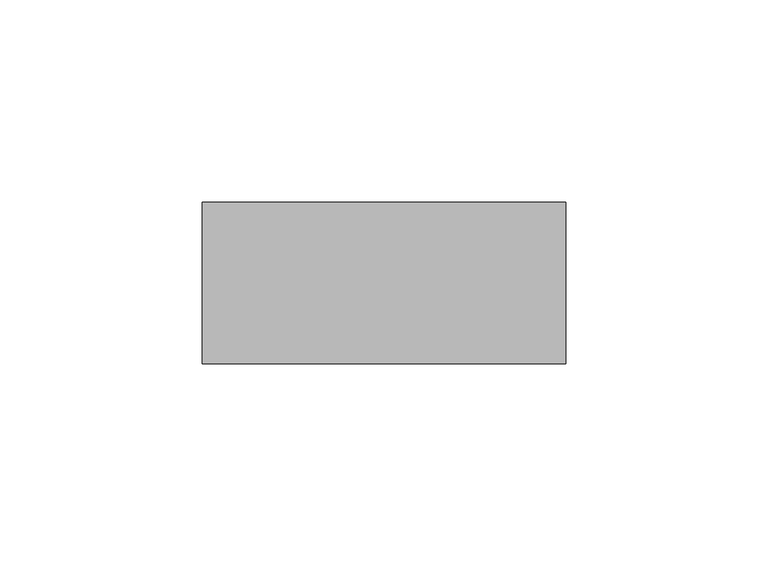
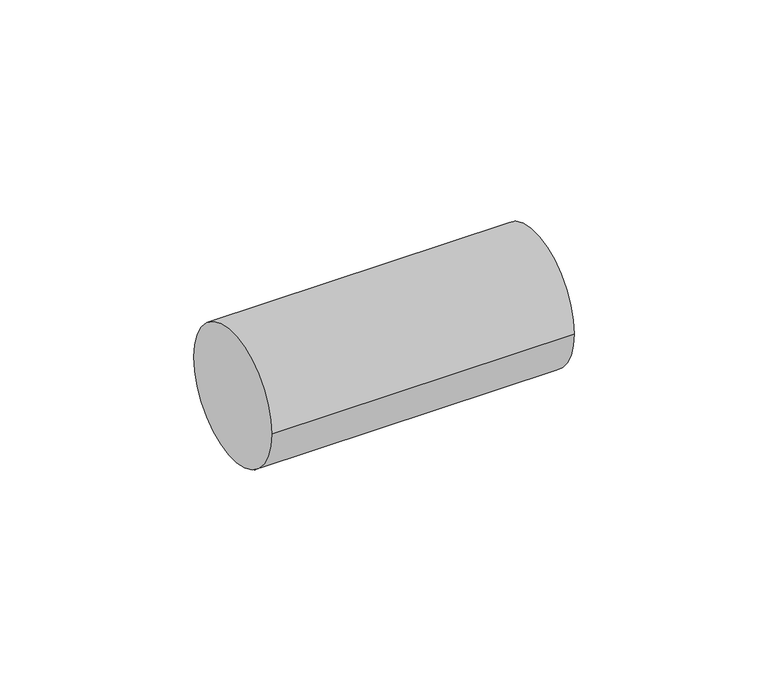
"""IFC4 building model written with IfcOpenShell, lengths in millimetres: valve geometry, EVRA_Термоголовка EVRA MТB140 : EVRA MТB140."""

from ifc_helpers import new_model, si_unit, point, frame, origin, origin_2d, place, context, project, spatial, circle_curve, trimmed, segment, composite_curve, outline, extrude, source, transform, mapped, element, save


def valve_3b1922a4(model_context):
    return source(origin(), model_context, "Body", "SweptSolid", [
        extrude(outline(composite_curve([segment(trimmed(circle_curve(origin_2d(), 20.0), [point((-20.0, 0.0))], [point((20.0, 0.0))], False, "CARTESIAN"), True, "CONTINUOUS"), segment(trimmed(circle_curve(origin_2d(), 20.0), [point((20.0, 0.0))], [point((-20.0, 0.0))], False, "CARTESIAN"), True, "CONTINUOUS")], self_intersect=False)), frame((-390.0, 0.0, 0.0), z_axis=(1.0, 0.0, 0.0), x_axis=(0.0, 1.0, 0.0)), (0.0, 0.0, 1.0), 90.0),
    ])


if __name__ == "__main__":
    model = new_model("IFC4")
    model_context = context("Model", 3, world=origin())
    ifc_project = project(units=[si_unit("LENGTHUNIT", "METRE", prefix="MILLI")], contexts=[model_context])
    site = spatial("IfcSite", under=ifc_project)
    building = spatial("IfcBuilding", under=site)
    placement = place(None, origin())
    valve_shape = valve_3b1922a4(model_context)
    element("IfcValve", 1, ObjectType="EVRA_Термоголовка EVRA MТB140 : EVRA MТB140", at=placement, inside=building, context=model_context, shape_type="MappedRepresentation", body=[
        mapped(valve_shape, transform((0.0, 0.0, 0.0), x_axis=(1.0, 0.0, 0.0), y_axis=(0.0, 1.0, 0.0), z_axis=(0.0, 0.0, 1.0))),
    ])
    save(model, "model.ifc")
